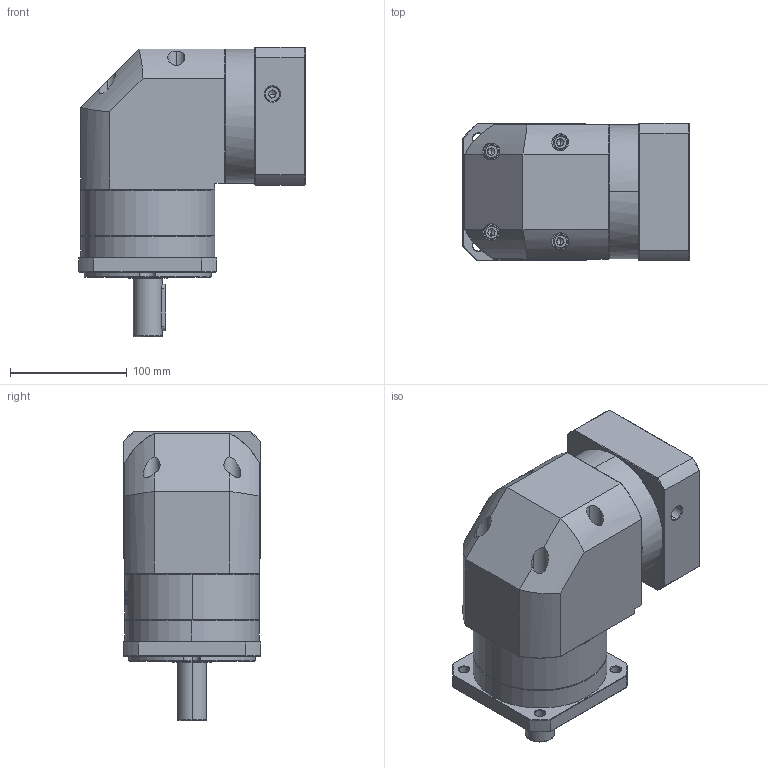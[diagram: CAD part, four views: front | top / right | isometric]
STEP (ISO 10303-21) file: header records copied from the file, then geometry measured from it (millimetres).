
FILE_DESCRIPTION (( 'STEP AP214' ), '1' );
FILE_NAME ('ZFR120A-D25-L1-P2-19-95-115-M8.step', '2023-08-27T08:01:03', ( '' ), ( '' ), 'SwSTEP 2.0', 'SolidWorks 2016', '' );
FILE_SCHEMA (( 'AUTOMOTIVE_DESIGN' ));
Length unit declared in the file: millimetre
Products named in the file (1): ZFR120A-D25-L1-P2-19-95-115-M8
Bounding box: 193.9 x 118 x 248 mm (x, y, z)
Volume: 2897943.5 mm3; surface area: 243618.3 mm2
Topology: 6 solids, 6 shells, 2264 faces, 5984 edges, 3825 vertices
Faces by surface type: plane 1061, cylinder 434, bspline 424, cone 337, torus 8
Entity records: 124141 total; most frequent: CARTESIAN_POINT 48701, ORIENTED_EDGE 11908, DIRECTION 8636, EDGE_CURVE 5954, VERTEX_POINT 3825, LINE 3158, VECTOR 3158, AXIS2_PLACEMENT_3D 2739
